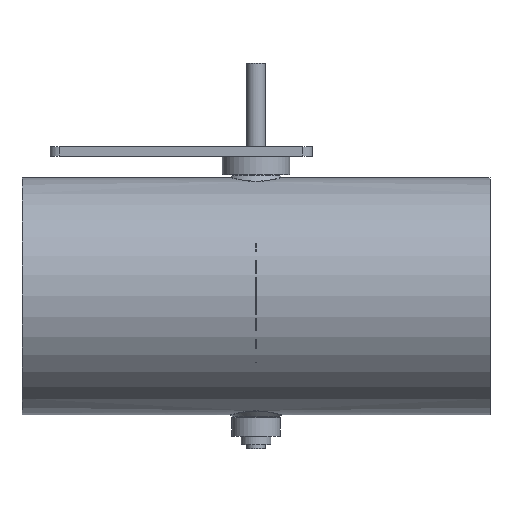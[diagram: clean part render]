
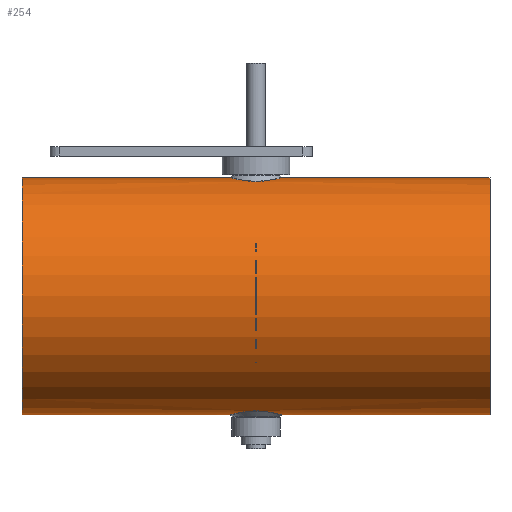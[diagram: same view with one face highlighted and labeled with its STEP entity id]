
A CAD part, top view. The second image highlights one B-rep face of the part: STEP entity #254.
In plain terms, the highlighted cylindrical face has radius 63.3 mm (diameter 126.6 mm), a full revolution.
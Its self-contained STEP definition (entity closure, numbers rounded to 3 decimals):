
#107=B_SPLINE_CURVE_WITH_KNOTS('',3,(#1488,#1489,#1490,#1491,#1492,#1493,
#1494,#1495,#1496,#1497,#1498,#1499,#1500,#1501,#1502,#1503,#1504,#1505,
#1506,#1507,#1508,#1509),.UNSPECIFIED.,.T.,.F.,(2,2,2,2,2,2,2,2,2,2,2,2,
2),(-0.063,0.,0.125,0.25,0.375,0.438,0.5,0.625,0.75,0.875,
0.938,1.,1.125),.UNSPECIFIED.);
#108=B_SPLINE_CURVE_WITH_KNOTS('',3,(#1511,#1512,#1513,#1514,#1515,#1516,
#1517,#1518,#1519,#1520,#1521,#1522,#1523,#1524,#1525,#1526,#1527,#1528,
#1529,#1530,#1531,#1532,#1533,#1534,#1535,#1536),.UNSPECIFIED.,.T.,.F.,(2,
2,2,2,2,2,2,2,2,2,2,2,2,2,2),(-0.063,0.,0.063,0.125,0.25,0.375,
0.5,0.562,0.625,0.687,
0.75,0.875,0.938,1.,1.063),.UNSPECIFIED.);
#210=CYLINDRICAL_SURFACE('',#1045,63.3);
#254=ADVANCED_FACE('',(#377,#378,#379,#380),#210,.T.);
#377=FACE_BOUND('',#497,.T.);
#378=FACE_BOUND('',#498,.T.);
#379=FACE_BOUND('',#499,.T.);
#380=FACE_BOUND('',#500,.T.);
#497=EDGE_LOOP('',(#643));
#498=EDGE_LOOP('',(#644));
#499=EDGE_LOOP('',(#645));
#500=EDGE_LOOP('',(#646));
#643=ORIENTED_EDGE('',*,*,#865,.T.);
#644=ORIENTED_EDGE('',*,*,#866,.T.);
#645=ORIENTED_EDGE('',*,*,#861,.T.);
#646=ORIENTED_EDGE('',*,*,#863,.T.);
#777=VERTEX_POINT('',#1479);
#779=VERTEX_POINT('',#1484);
#781=VERTEX_POINT('',#1510);
#782=VERTEX_POINT('',#1537);
#861=EDGE_CURVE('',#777,#777,#945,.T.);
#863=EDGE_CURVE('',#779,#779,#947,.T.);
#865=EDGE_CURVE('',#781,#781,#107,.T.);
#866=EDGE_CURVE('',#782,#782,#108,.T.);
#945=CIRCLE('',#1039,63.3);
#947=CIRCLE('',#1042,63.3);
#1039=AXIS2_PLACEMENT_3D('',#1478,#1238,#1239);
#1042=AXIS2_PLACEMENT_3D('',#1483,#1244,#1245);
#1045=AXIS2_PLACEMENT_3D('',#1538,#1250,#1251);
#1238=DIRECTION('',(-1.,0.,0.));
#1239=DIRECTION('',(0.,0.,1.));
#1244=DIRECTION('',(1.,0.,0.));
#1245=DIRECTION('',(0.,0.,-1.));
#1250=DIRECTION('',(1.,0.,0.));
#1251=DIRECTION('',(0.,0.,-1.));
#1478=CARTESIAN_POINT('',(125.,-20.8,125.));
#1479=CARTESIAN_POINT('',(125.,-20.8,188.3));
#1483=CARTESIAN_POINT('',(-125.,-20.8,125.));
#1484=CARTESIAN_POINT('',(-125.,-20.8,61.7));
#1488=CARTESIAN_POINT('',(-1.423,-82.012,108.867));
#1489=CARTESIAN_POINT('',(-7.199,-82.427,110.501));
#1490=CARTESIAN_POINT('',(-10.326,-83.122,113.378));
#1491=CARTESIAN_POINT('',(-13.997,-84.024,120.327));
#1492=CARTESIAN_POINT('',(-14.59,-84.217,124.512));
#1493=CARTESIAN_POINT('',(-13.084,-83.803,132.248));
#1494=CARTESIAN_POINT('',(-10.977,-83.202,135.898));
#1495=CARTESIAN_POINT('',(-6.335,-82.435,139.474));
#1496=CARTESIAN_POINT('',(-4.513,-82.208,140.366));
#1497=CARTESIAN_POINT('',(-0.609,-81.993,141.202));
#1498=CARTESIAN_POINT('',(1.444,-82.014,141.127));
#1499=CARTESIAN_POINT('',(7.139,-82.423,139.518));
#1500=CARTESIAN_POINT('',(10.293,-83.115,136.669));
#1501=CARTESIAN_POINT('',(14.002,-84.025,129.678));
#1502=CARTESIAN_POINT('',(14.599,-84.219,125.558));
#1503=CARTESIAN_POINT('',(13.082,-83.802,117.719));
#1504=CARTESIAN_POINT('',(11.036,-83.212,114.149));
#1505=CARTESIAN_POINT('',(6.313,-82.431,110.508));
#1506=CARTESIAN_POINT('',(4.491,-82.207,109.629));
#1507=CARTESIAN_POINT('',(0.628,-81.994,108.802));
#1508=CARTESIAN_POINT('',(-1.423,-82.012,108.867));
#1509=CARTESIAN_POINT('',(-7.199,-82.427,110.501));
#1510=CARTESIAN_POINT('',(-3.348,-82.151,109.411));
#1511=CARTESIAN_POINT('',(-5.274,40.689,109.956));
#1512=CARTESIAN_POINT('',(-1.423,40.412,108.867));
#1513=CARTESIAN_POINT('',(0.619,40.394,108.801));
#1514=CARTESIAN_POINT('',(4.488,40.606,109.627));
#1515=CARTESIAN_POINT('',(6.322,40.833,110.515));
#1516=CARTESIAN_POINT('',(11.011,41.608,114.129));
#1517=CARTESIAN_POINT('',(13.094,42.206,117.776));
#1518=CARTESIAN_POINT('',(14.59,42.616,125.515));
#1519=CARTESIAN_POINT('',(13.988,42.422,129.697));
#1520=CARTESIAN_POINT('',(10.322,41.522,136.623));
#1521=CARTESIAN_POINT('',(7.209,40.831,139.486));
#1522=CARTESIAN_POINT('',(1.465,40.414,141.127));
#1523=CARTESIAN_POINT('',(-0.582,40.393,141.203));
#1524=CARTESIAN_POINT('',(-4.487,40.606,140.376));
#1525=CARTESIAN_POINT('',(-6.307,40.831,139.492));
#1526=CARTESIAN_POINT('',(-9.427,41.346,137.096));
#1527=CARTESIAN_POINT('',(-10.739,41.633,135.582));
#1528=CARTESIAN_POINT('',(-12.76,42.115,132.183));
#1529=CARTESIAN_POINT('',(-13.461,42.306,130.322));
#1530=CARTESIAN_POINT('',(-14.599,42.619,124.445));
#1531=CARTESIAN_POINT('',(-14.013,42.428,120.348));
#1532=CARTESIAN_POINT('',(-11.222,41.743,115.079));
#1533=CARTESIAN_POINT('',(-10.019,41.467,113.533));
#1534=CARTESIAN_POINT('',(-7.018,40.933,110.941));
#1535=CARTESIAN_POINT('',(-5.274,40.689,109.956));
#1536=CARTESIAN_POINT('',(-1.423,40.412,108.867));
#1537=CARTESIAN_POINT('',(-3.348,40.551,109.411));
#1538=CARTESIAN_POINT('',(-125.,-20.8,125.));
